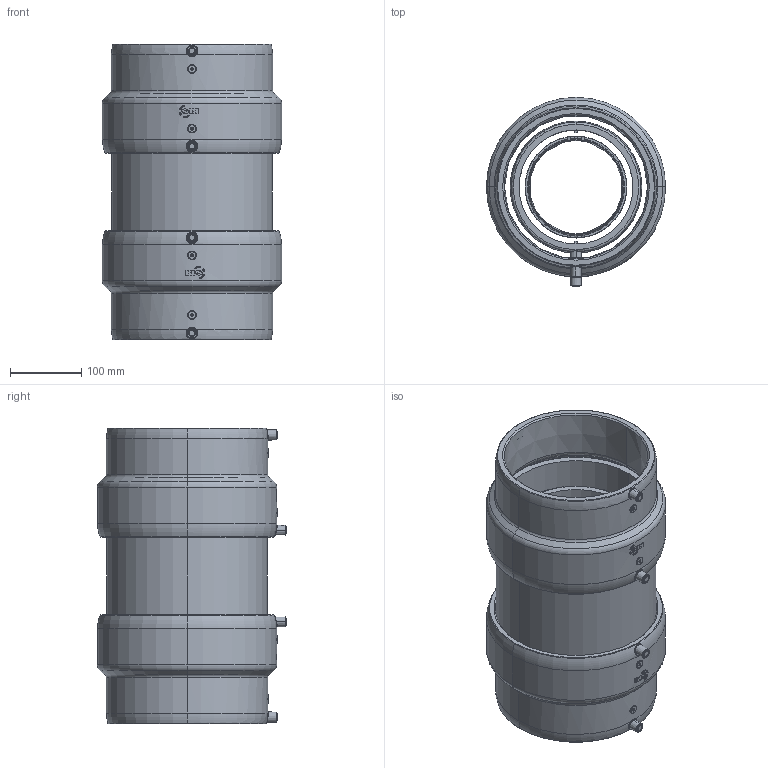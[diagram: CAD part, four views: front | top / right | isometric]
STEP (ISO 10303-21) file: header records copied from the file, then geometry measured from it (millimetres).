
FILE_DESCRIPTION (( 'STEP AP214' ), '1' );
FILE_NAME ('KP_2-200-160SC.STEP', '2025-01-09T10:42:33', ( '' ), ( '' ), 'SwSTEP 2.0', 'SolidWorks 2023', '' );
FILE_SCHEMA (( 'AUTOMOTIVE_DESIGN' ));
Length unit declared in the file: millimetre
Products named in the file (1): KP_2-200-160SC
Bounding box: 251.6 x 265.49 x 415.3 mm (x, y, z)
Volume: 5474186.5 mm3; surface area: 1141695.9 mm2
Topology: 5 solids, 21 shells, 1368 faces, 3402 edges, 2126 vertices
Faces by surface type: plane 432, bspline 290, cylinder 288, torus 198, cone 160
Entity records: 56379 total; most frequent: CARTESIAN_POINT 27097, ORIENTED_EDGE 6788, DIRECTION 5318, EDGE_CURVE 3394, AXIS2_PLACEMENT_3D 2167, VERTEX_POINT 2126, EDGE_LOOP 1492, ADVANCED_FACE 1368
